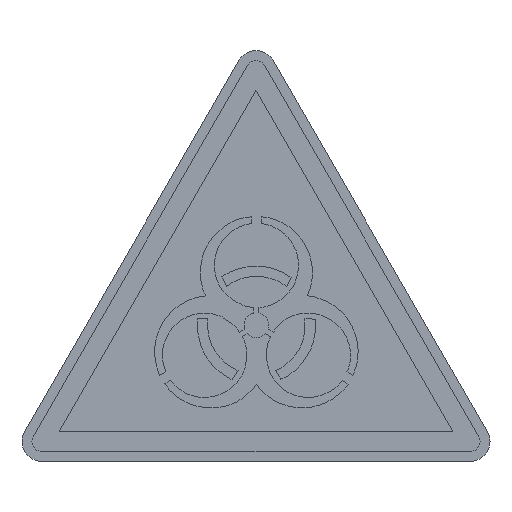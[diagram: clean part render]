
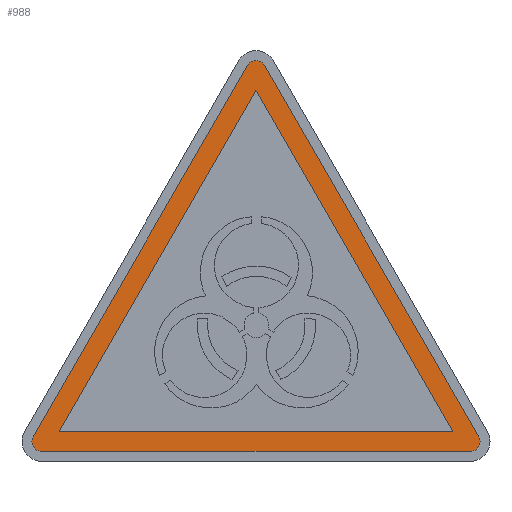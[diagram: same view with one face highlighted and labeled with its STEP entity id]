
A CAD part, top view. The second image highlights one B-rep face of the part: STEP entity #988.
In plain terms, the highlighted planar face has unit normal (0, 0, 1).
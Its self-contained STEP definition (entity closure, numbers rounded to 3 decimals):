
#1 = CARTESIAN_POINT ( 'NONE',  ( 22.402, 2.5, 0.22 ) ) ;
#43 = EDGE_CURVE ( 'NONE', #2365, #2950, #1054, .T. ) ;
#46 = VECTOR ( 'NONE', #1081, 1000. ) ;
#143 = EDGE_CURVE ( 'NONE', #897, #1218, #342, .T. ) ;
#256 = DIRECTION ( 'NONE',  ( 0., 0., 1. ) ) ;
#302 = VERTEX_POINT ( 'NONE', #1 ) ;
#305 = LINE ( 'NONE', #1613, #3206 ) ;
#337 = DIRECTION ( 'NONE',  ( 1., 0., 0. ) ) ;
#342 = LINE ( 'NONE', #860, #3309 ) ;
#367 = FACE_BOUND ( 'NONE', #3024, .T. ) ;
#393 = CARTESIAN_POINT ( 'NONE',  ( 0., 37.301, 0.22 ) ) ;
#395 = CARTESIAN_POINT ( 'NONE',  ( -0.866, 39.801, 0.22 ) ) ;
#423 = DIRECTION ( 'NONE',  ( 0., 0., 1. ) ) ;
#626 = EDGE_CURVE ( 'NONE', #302, #1518, #3232, .T. ) ;
#635 = AXIS2_PLACEMENT_3D ( 'NONE', #1535, #256, #1276 ) ;
#661 = VERTEX_POINT ( 'NONE', #1528 ) ;
#716 = DIRECTION ( 'NONE',  ( 0., 0., 1. ) ) ;
#743 = EDGE_CURVE ( 'NONE', #1218, #661, #1819, .T. ) ;
#795 = CARTESIAN_POINT ( 'NONE',  ( -21.536, 1., 0.22 ) ) ;
#860 = CARTESIAN_POINT ( 'NONE',  ( 19.804, 3., 0.22 ) ) ;
#887 = CARTESIAN_POINT ( 'NONE',  ( -21.536, 1., 0.22 ) ) ;
#896 = VECTOR ( 'NONE', #1586, 1000. ) ;
#897 = VERTEX_POINT ( 'NONE', #1817 ) ;
#938 = DIRECTION ( 'NONE',  ( -0.5, 0.866, 0. ) ) ;
#947 = EDGE_CURVE ( 'NONE', #1144, #302, #2075, .T. ) ;
#950 = CARTESIAN_POINT ( 'NONE',  ( -21.536, 2., 0.22 ) ) ;
#988 = ADVANCED_FACE ( 'NONE', ( #2694, #367 ), #1721, .T. ) ;
#1054 = LINE ( 'NONE', #1811, #896 ) ;
#1061 = DIRECTION ( 'NONE',  ( 0., 0., 1. ) ) ;
#1081 = DIRECTION ( 'NONE',  ( -0.5, -0.866, 0. ) ) ;
#1099 = ORIENTED_EDGE ( 'NONE', *, *, #1900, .T. ) ;
#1133 = VERTEX_POINT ( 'NONE', #795 ) ;
#1144 = VERTEX_POINT ( 'NONE', #2587 ) ;
#1214 = ORIENTED_EDGE ( 'NONE', *, *, #626, .T. ) ;
#1218 = VERTEX_POINT ( 'NONE', #393 ) ;
#1224 = CIRCLE ( 'NONE', #1501, 1. ) ;
#1243 = VERTEX_POINT ( 'NONE', #2152 ) ;
#1276 = DIRECTION ( 'NONE',  ( 1., 0., 0. ) ) ;
#1301 = DIRECTION ( 'NONE',  ( 0., 0., 1. ) ) ;
#1382 = AXIS2_PLACEMENT_3D ( 'NONE', #2445, #423, #2952 ) ;
#1414 = DIRECTION ( 'NONE',  ( 1., 0., 0. ) ) ;
#1436 = VECTOR ( 'NONE', #938, 1000. ) ;
#1501 = AXIS2_PLACEMENT_3D ( 'NONE', #950, #716, #1414 ) ;
#1518 = VERTEX_POINT ( 'NONE', #2134 ) ;
#1528 = CARTESIAN_POINT ( 'NONE',  ( -19.804, 3., 0.22 ) ) ;
#1535 = CARTESIAN_POINT ( 'NONE',  ( -21.536, 2., 0.22 ) ) ;
#1547 = EDGE_CURVE ( 'NONE', #661, #897, #305, .T. ) ;
#1586 = DIRECTION ( 'NONE',  ( -0.5, -0.866, 0. ) ) ;
#1588 = ORIENTED_EDGE ( 'NONE', *, *, #1547, .F. ) ;
#1613 = CARTESIAN_POINT ( 'NONE',  ( -19.804, 3., 0.22 ) ) ;
#1657 = VECTOR ( 'NONE', #1898, 1000. ) ;
#1721 = PLANE ( 'NONE',  #1382 ) ;
#1766 = AXIS2_PLACEMENT_3D ( 'NONE', #2055, #1301, #3080 ) ;
#1782 = ORIENTED_EDGE ( 'NONE', *, *, #143, .F. ) ;
#1811 = CARTESIAN_POINT ( 'NONE',  ( -0.866, 39.801, 0.22 ) ) ;
#1817 = CARTESIAN_POINT ( 'NONE',  ( 19.804, 3., 0.22 ) ) ;
#1819 = LINE ( 'NONE', #2839, #46 ) ;
#1862 = CIRCLE ( 'NONE', #635, 1. ) ;
#1887 = DIRECTION ( 'NONE',  ( -0.5, 0.866, 0. ) ) ;
#1898 = DIRECTION ( 'NONE',  ( 1., 0., 0. ) ) ;
#1899 = ORIENTED_EDGE ( 'NONE', *, *, #2722, .T. ) ;
#1900 = EDGE_CURVE ( 'NONE', #1243, #1133, #1224, .T. ) ;
#1990 = CARTESIAN_POINT ( 'NONE',  ( 22.402, 2.5, 0.22 ) ) ;
#2032 = ORIENTED_EDGE ( 'NONE', *, *, #947, .T. ) ;
#2055 = CARTESIAN_POINT ( 'NONE',  ( 0., 39.301, 0.22 ) ) ;
#2064 = CARTESIAN_POINT ( 'NONE',  ( 21.536, 2., 0.22 ) ) ;
#2075 = CIRCLE ( 'NONE', #2124, 1. ) ;
#2082 = DIRECTION ( 'NONE',  ( 1., 0., 0. ) ) ;
#2124 = AXIS2_PLACEMENT_3D ( 'NONE', #2064, #1061, #2082 ) ;
#2134 = CARTESIAN_POINT ( 'NONE',  ( 0.866, 39.801, 0.22 ) ) ;
#2152 = CARTESIAN_POINT ( 'NONE',  ( -22.536, 2., 0.22 ) ) ;
#2157 = EDGE_CURVE ( 'NONE', #1518, #2365, #2504, .T. ) ;
#2318 = EDGE_LOOP ( 'NONE', ( #2601, #2701, #2885, #1099, #1899, #2032, #1214 ) ) ;
#2365 = VERTEX_POINT ( 'NONE', #395 ) ;
#2428 = EDGE_CURVE ( 'NONE', #2950, #1243, #1862, .T. ) ;
#2445 = CARTESIAN_POINT ( 'NONE',  ( 0., 39.301, 0.22 ) ) ;
#2504 = CIRCLE ( 'NONE', #1766, 1. ) ;
#2587 = CARTESIAN_POINT ( 'NONE',  ( 21.536, 1., 0.22 ) ) ;
#2601 = ORIENTED_EDGE ( 'NONE', *, *, #2157, .T. ) ;
#2621 = LINE ( 'NONE', #887, #1657 ) ;
#2694 = FACE_OUTER_BOUND ( 'NONE', #2318, .T. ) ;
#2701 = ORIENTED_EDGE ( 'NONE', *, *, #43, .T. ) ;
#2722 = EDGE_CURVE ( 'NONE', #1133, #1144, #2621, .T. ) ;
#2753 = CARTESIAN_POINT ( 'NONE',  ( -22.402, 2.5, 0.22 ) ) ;
#2839 = CARTESIAN_POINT ( 'NONE',  ( 0., 37.301, 0.22 ) ) ;
#2853 = ORIENTED_EDGE ( 'NONE', *, *, #743, .F. ) ;
#2885 = ORIENTED_EDGE ( 'NONE', *, *, #2428, .T. ) ;
#2950 = VERTEX_POINT ( 'NONE', #2753 ) ;
#2952 = DIRECTION ( 'NONE',  ( 1., 0., 0. ) ) ;
#3024 = EDGE_LOOP ( 'NONE', ( #1588, #2853, #1782 ) ) ;
#3080 = DIRECTION ( 'NONE',  ( 1., 0., 0. ) ) ;
#3206 = VECTOR ( 'NONE', #337, 1000. ) ;
#3232 = LINE ( 'NONE', #1990, #1436 ) ;
#3309 = VECTOR ( 'NONE', #1887, 1000. ) ;
